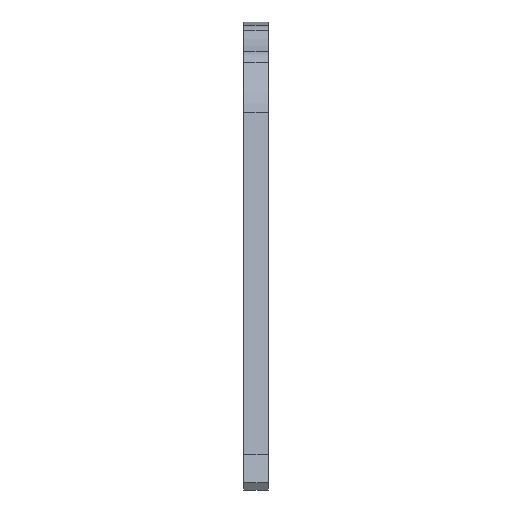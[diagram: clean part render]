
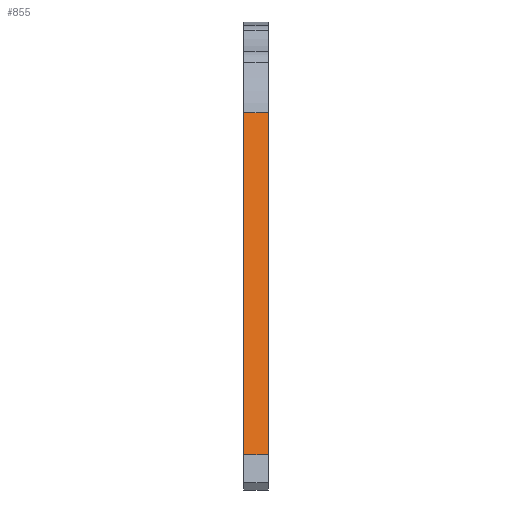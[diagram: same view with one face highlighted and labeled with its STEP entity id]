
A CAD part, left-side view. The second image highlights one B-rep face of the part: STEP entity #855.
In plain terms, the highlighted planar face has unit normal (-0.5, 0, 0.866).
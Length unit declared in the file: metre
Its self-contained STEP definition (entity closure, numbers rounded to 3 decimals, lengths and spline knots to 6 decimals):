
#175=ORIENTED_EDGE('',*,*,#401,.T.);
#176=ORIENTED_EDGE('',*,*,#402,.F.);
#177=ORIENTED_EDGE('',*,*,#403,.F.);
#178=ORIENTED_EDGE('',*,*,#399,.T.);
#399=EDGE_CURVE('',#505,#504,#585,.T.);
#401=EDGE_CURVE('',#504,#506,#586,.T.);
#402=EDGE_CURVE('',#507,#506,#587,.T.);
#403=EDGE_CURVE('',#505,#507,#588,.T.);
#504=VERTEX_POINT('',#1392);
#505=VERTEX_POINT('',#1394);
#506=VERTEX_POINT('',#1398);
#507=VERTEX_POINT('',#1400);
#585=LINE('',#1393,#656);
#586=LINE('',#1397,#657);
#587=LINE('',#1399,#658);
#588=LINE('',#1401,#659);
#656=VECTOR('',#1119,1.);
#657=VECTOR('',#1124,1.);
#658=VECTOR('',#1125,1.);
#659=VECTOR('',#1126,1.);
#698=EDGE_LOOP('',(#175,#176,#177,#178));
#767=FACE_BOUND('',#698,.T.);
#826=PLANE('',#932);
#855=ADVANCED_FACE('',(#767),#826,.F.);
#932=AXIS2_PLACEMENT_3D('',#1396,#1122,#1123);
#1119=DIRECTION('',(0.,1.,0.));
#1122=DIRECTION('',(0.5,0.,-0.866));
#1123=DIRECTION('',(0.866,0.,0.5));
#1124=DIRECTION('',(-0.866,0.,-0.5));
#1125=DIRECTION('',(0.,1.,0.));
#1126=DIRECTION('',(-0.866,0.,-0.5));
#1392=CARTESIAN_POINT('',(0.151112,0.,0.093018));
#1393=CARTESIAN_POINT('',(0.151112,-0.006,0.093018));
#1394=CARTESIAN_POINT('',(0.151112,-0.006,0.093018));
#1396=CARTESIAN_POINT('',(0.120353,-0.006,0.075259));
#1397=CARTESIAN_POINT('',(0.120353,0.,0.075259));
#1398=CARTESIAN_POINT('',(0.005,0.,0.00866));
#1399=CARTESIAN_POINT('',(0.005,-0.006,0.00866));
#1400=CARTESIAN_POINT('',(0.005,-0.006,0.00866));
#1401=CARTESIAN_POINT('',(0.120353,-0.006,0.075259));
